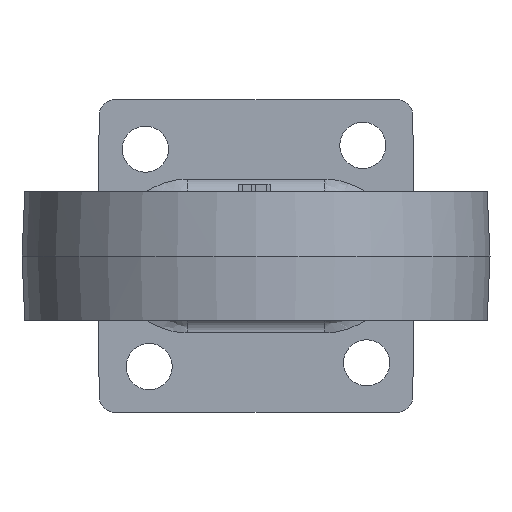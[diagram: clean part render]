
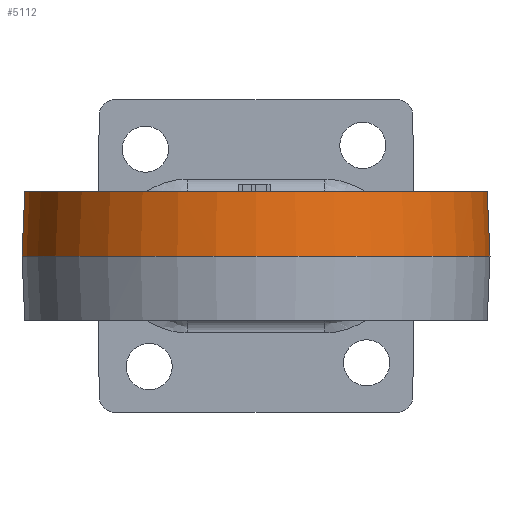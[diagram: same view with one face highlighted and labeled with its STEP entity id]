
A CAD part, front view. The second image highlights one B-rep face of the part: STEP entity #5112.
In plain terms, the highlighted conical face has half-angle 2.5 degrees and reference radius 45 mm.
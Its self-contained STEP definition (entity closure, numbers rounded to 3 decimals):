
#5014=CARTESIAN_POINT('',(24.614,38.452,0.));
#5015=VERTEX_POINT('',#5014);
#5039=CARTESIAN_POINT('',(0.0,0.0,15.0));
#5040=DIRECTION('',(0.0,0.0,-1.0));
#5041=DIRECTION('',(-1.0,0.0,0.0));
#5042=AXIS2_PLACEMENT_3D('',#5039,#5040,#5041);
#5043=CONICAL_SURFACE('',#5042,45.0,2.5);
#5044=CARTESIAN_POINT('',(-24.614,38.452,0.));
#5045=VERTEX_POINT('',#5044);
#5046=CARTESIAN_POINT('',(0.0,0.0,0.0));
#5047=DIRECTION('',(0.0,0.0,-1.0));
#5048=DIRECTION('',(-1.0,0.0,0.0));
#5049=AXIS2_PLACEMENT_3D('',#5046,#5047,#5048);
#5050=CIRCLE('',#5049,45.655);
#5051=EDGE_CURVE('',#5015,#5045,#5050,.T.);
#5052=ORIENTED_EDGE('',*,*,#5051,.F.);
#5053=CARTESIAN_POINT('',(24.595,38.238,4.349));
#5054=VERTEX_POINT('',#5053);
#5055=CARTESIAN_POINT('',(24.595,38.238,4.349));
#5056=CARTESIAN_POINT('',(24.602,38.309,2.899));
#5057=CARTESIAN_POINT('',(24.608,38.38,1.45));
#5058=CARTESIAN_POINT('',(24.614,38.452,0.));
#5059=B_SPLINE_CURVE_WITH_KNOTS('',3,(#5055,#5056,#5057,#5058),.UNSPECIFIED.,.F.,.U.,(4,4),(-1.437,-1.001),.UNSPECIFIED.);
#5060=EDGE_CURVE('',#5054,#5015,#5059,.T.);
#5061=ORIENTED_EDGE('',*,*,#5060,.F.);
#5062=CARTESIAN_POINT('',(17.919,41.398,12.5));
#5063=VERTEX_POINT('',#5062);
#5064=CARTESIAN_POINT('',(17.919,41.398,12.5));
#5065=CARTESIAN_POINT('',(18.003,41.364,12.437));
#5066=CARTESIAN_POINT('',(18.758,41.062,11.863));
#5067=CARTESIAN_POINT('',(20.078,40.5,10.646));
#5068=CARTESIAN_POINT('',(21.736,39.73,8.678));
#5069=CARTESIAN_POINT('',(23.218,38.988,6.564));
#5070=CARTESIAN_POINT('',(24.136,38.494,5.097));
#5071=CARTESIAN_POINT('',(24.588,38.242,4.362));
#5072=CARTESIAN_POINT('',(24.59,38.241,4.358));
#5073=CARTESIAN_POINT('',(24.593,38.239,4.353));
#5074=CARTESIAN_POINT('',(24.595,38.238,4.349));
#5075=B_SPLINE_CURVE_WITH_KNOTS('',3,(#5064,#5065,#5066,#5067,#5068,#5069,#5070,#5071,#5072,#5073,#5074),.UNSPECIFIED.,.F.,.U.,(4,1,1,1,1,3,4),(-1.137,-1.102,-0.827,-0.551,-0.276,0.0,0.002),.UNSPECIFIED.);
#5076=EDGE_CURVE('',#5063,#5054,#5075,.T.);
#5077=ORIENTED_EDGE('',*,*,#5076,.F.);
#5078=CARTESIAN_POINT('',(-17.919,41.398,12.5));
#5079=VERTEX_POINT('',#5078);
#5080=CARTESIAN_POINT('',(0.0,0.0,12.5));
#5081=DIRECTION('',(0.0,0.0,-1.0));
#5082=DIRECTION('',(-1.0,0.0,0.0));
#5083=AXIS2_PLACEMENT_3D('',#5080,#5081,#5082);
#5084=CIRCLE('',#5083,45.109);
#5085=EDGE_CURVE('',#5063,#5079,#5084,.T.);
#5086=ORIENTED_EDGE('',*,*,#5085,.T.);
#5087=CARTESIAN_POINT('',(-24.595,38.238,4.349));
#5088=VERTEX_POINT('',#5087);
#5089=CARTESIAN_POINT('',(-24.595,38.238,4.349));
#5090=CARTESIAN_POINT('',(-24.593,38.239,4.353));
#5091=CARTESIAN_POINT('',(-24.59,38.241,4.358));
#5092=CARTESIAN_POINT('',(-24.588,38.242,4.362));
#5093=CARTESIAN_POINT('',(-24.136,38.494,5.097));
#5094=CARTESIAN_POINT('',(-23.218,38.988,6.564));
#5095=CARTESIAN_POINT('',(-21.736,39.73,8.678));
#5096=CARTESIAN_POINT('',(-20.078,40.5,10.646));
#5097=CARTESIAN_POINT('',(-18.758,41.062,11.863));
#5098=CARTESIAN_POINT('',(-18.003,41.364,12.437));
#5099=CARTESIAN_POINT('',(-17.918,41.398,12.5));
#5100=B_SPLINE_CURVE_WITH_KNOTS('',3,(#5089,#5090,#5091,#5092,#5093,#5094,#5095,#5096,#5097,#5098,#5099),.UNSPECIFIED.,.F.,.U.,(4,3,1,1,1,1,4),(-1.931,-1.929,-1.654,-1.378,-1.102,-0.827,-0.792),.UNSPECIFIED.);
#5101=EDGE_CURVE('',#5088,#5079,#5100,.T.);
#5102=ORIENTED_EDGE('',*,*,#5101,.F.);
#5103=CARTESIAN_POINT('',(-24.614,38.452,0.));
#5104=CARTESIAN_POINT('',(-24.608,38.38,1.45));
#5105=CARTESIAN_POINT('',(-24.602,38.309,2.899));
#5106=CARTESIAN_POINT('',(-24.595,38.238,4.349));
#5107=B_SPLINE_CURVE_WITH_KNOTS('',3,(#5103,#5104,#5105,#5106),.UNSPECIFIED.,.F.,.U.,(4,4),(-2.46,-2.024),.UNSPECIFIED.);
#5108=EDGE_CURVE('',#5045,#5088,#5107,.T.);
#5109=ORIENTED_EDGE('',*,*,#5108,.F.);
#5110=EDGE_LOOP('',(#5052,#5061,#5077,#5086,#5102,#5109));
#5111=FACE_OUTER_BOUND('',#5110,.T.);
#5112=ADVANCED_FACE('',(#5111),#5043,.T.);
